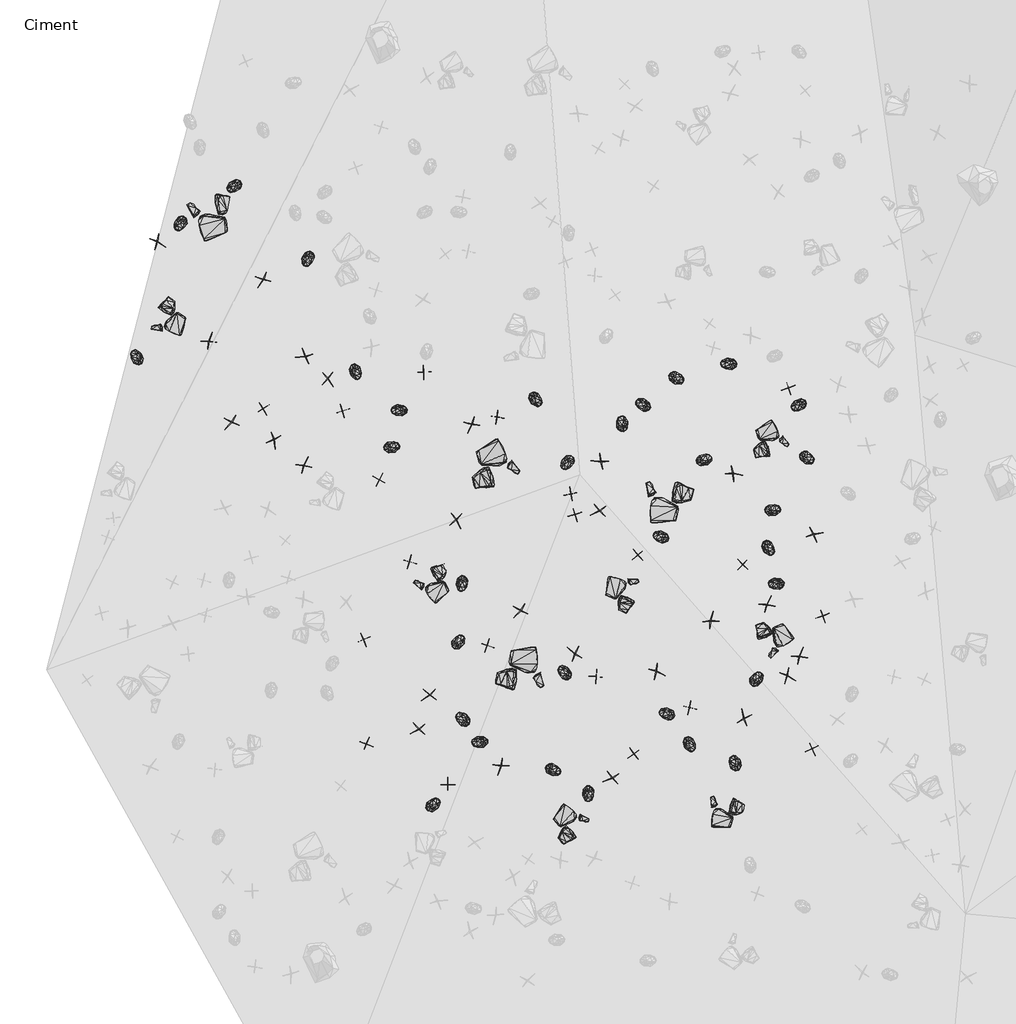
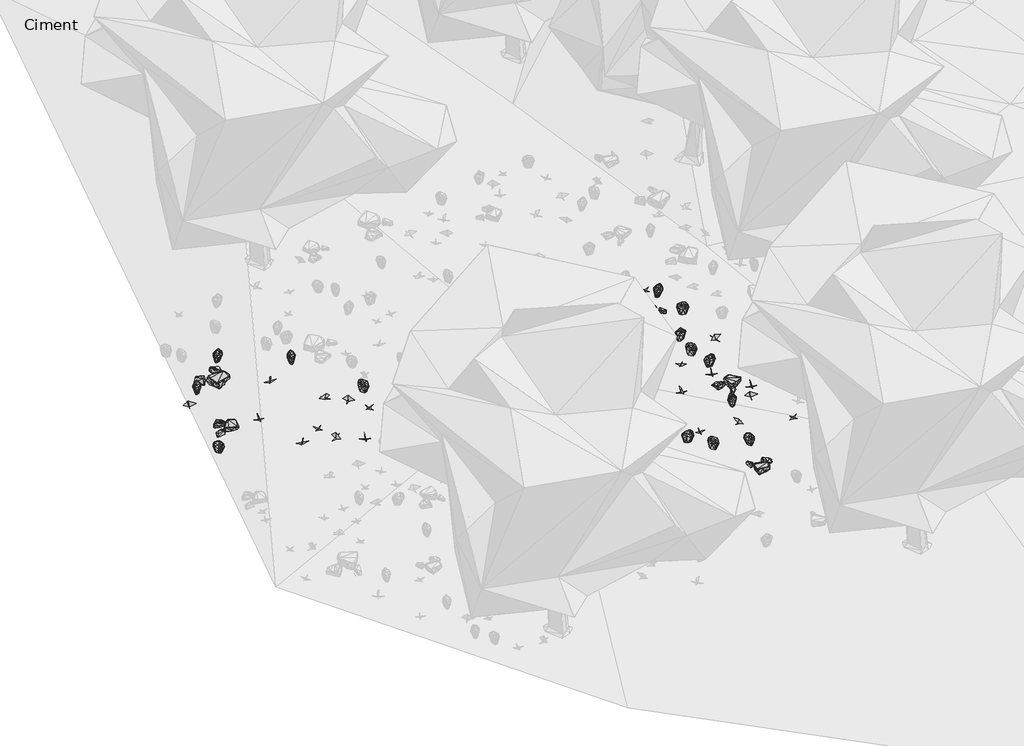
# One storey, part 6 of 30: 89 geographic elements.
"""IFC4 building model written with IfcOpenShell, lengths in millimetres."""

from ifc_helpers import new_model, si_unit, origin, place, context, project, spatial, transform, mapped, element, save
from components import enscape_assetdefinition_bush_025_fern_enscape_5718bf32, enscape_assetdefinition_bush_054_plant_09_version_2_enscape_7b546a12, enscape_assetdefinition_bush_062_plant_09_version_3_enscape_ccf8c8eb, enscape_assetdefinition_stone_013_group_enscape_516da325, enscape_assetdefinition_stone_013_group_enscape_db9b3e91

model = new_model("IFC4")

# Units and contexts
model_context = context("Model", 3, world=origin())
ifc_project = project(units=[si_unit("LENGTHUNIT", "METRE", prefix="MILLI")], contexts=[model_context])

# Site, building, storey
site = spatial("IfcSite", under=ifc_project)
building = spatial("IfcBuilding", under=site)
storey = spatial("IfcBuildingStorey", under=building, Name="Ciment", Elevation=-1500.0)

# Geographic elements
placement = place(None, origin())
enscape_assetdefinition_bush_025_fern_enscape_shape = enscape_assetdefinition_bush_025_fern_enscape_5718bf32(model_context)
element("IfcGeographicElement", 1, ObjectType="Enscape AssetDefinition - Bush 025 Fern : Enscape AssetDefinition - Bush 025 Fern", at=placement, inside=storey, context=model_context, shape_type="MappedRepresentation", body=[
    mapped(enscape_assetdefinition_bush_025_fern_enscape_shape, transform((-20373.1822968, -9754.983902, -2021.9948292), x_axis=(-0.5055555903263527, -0.8627940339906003, 0.0), y_axis=(0.8627940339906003, -0.5055555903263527, 0.0), z_axis=(0.0, 0.0, 1.0))),
])
element("IfcGeographicElement", 2, ObjectType="Enscape AssetDefinition - Bush 025 Fern : Enscape AssetDefinition - Bush 025 Fern", at=placement, inside=storey, context=model_context, shape_type="MappedRepresentation", body=[
    mapped(enscape_assetdefinition_bush_025_fern_enscape_shape, transform((-19429.6302795, -9082.7312469, -2000.0), x_axis=(-0.19521427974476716, 0.9807606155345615, 0.0), y_axis=(-0.9807606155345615, -0.19521427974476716, 0.0), z_axis=(0.0, 0.0, 1.0))),
])
element("IfcGeographicElement", 3, ObjectType="Enscape AssetDefinition - Bush 025 Fern : Enscape AssetDefinition - Bush 025 Fern", at=placement, inside=storey, context=model_context, shape_type="MappedRepresentation", body=[
    mapped(enscape_assetdefinition_bush_025_fern_enscape_shape, transform((-19084.1751099, -8762.4139786, -2000.0), x_axis=(-0.9294988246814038, 0.3688250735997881, 0.0), y_axis=(-0.3688250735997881, -0.9294988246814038, 0.0), z_axis=(0.0, 0.0, 1.0))),
])
element("IfcGeographicElement", 4, ObjectType="Enscape AssetDefinition - Bush 025 Fern : Enscape AssetDefinition - Bush 025 Fern", at=placement, inside=storey, context=model_context, shape_type="MappedRepresentation", body=[
    mapped(enscape_assetdefinition_bush_025_fern_enscape_shape, transform((-26041.2139893, -5053.1773567, -2735.9106541), x_axis=(-0.7476370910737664, -0.6641075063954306, 0.0), y_axis=(0.6641075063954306, -0.7476370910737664, 0.0), z_axis=(0.0, 0.0, 1.0))),
])
element("IfcGeographicElement", 5, ObjectType="Enscape AssetDefinition - Bush 025 Fern : Enscape AssetDefinition - Bush 025 Fern", at=placement, inside=storey, context=model_context, shape_type="MappedRepresentation", body=[
    mapped(enscape_assetdefinition_bush_025_fern_enscape_shape, transform((-24782.541275, -6292.2077179, -2466.9878483), x_axis=(-0.28930830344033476, -0.9572359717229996, 0.0), y_axis=(0.9572359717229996, -0.28930830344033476, 0.0), z_axis=(0.0, 0.0, 1.0))),
])
element("IfcGeographicElement", 6, ObjectType="Enscape AssetDefinition - Bush 025 Fern : Enscape AssetDefinition - Bush 025 Fern", at=placement, inside=storey, context=model_context, shape_type="MappedRepresentation", body=[
    mapped(enscape_assetdefinition_bush_025_fern_enscape_shape, transform((-23968.8663483, -8217.7019119, -2395.3208923), x_axis=(0.46540904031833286, -0.8850957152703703, 0.0), y_axis=(0.8850957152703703, 0.46540904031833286, 0.0), z_axis=(0.0, 0.0, 1.0))),
])
element("IfcGeographicElement", 7, ObjectType="Enscape AssetDefinition - Bush 025 Fern : Enscape AssetDefinition - Bush 025 Fern", at=placement, inside=storey, context=model_context, shape_type="MappedRepresentation", body=[
    mapped(enscape_assetdefinition_bush_025_fern_enscape_shape, transform((-23341.6194916, -9491.3005829, -2338.3626938), x_axis=(0.9426649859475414, 0.3337405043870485, 0.0), y_axis=(-0.3337405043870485, 0.9426649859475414, 0.0), z_axis=(0.0, 0.0, 1.0))),
])
element("IfcGeographicElement", 8, ObjectType="Enscape AssetDefinition - Bush 025 Fern : Enscape AssetDefinition - Bush 025 Fern", at=placement, inside=storey, context=model_context, shape_type="MappedRepresentation", body=[
    mapped(enscape_assetdefinition_bush_025_fern_enscape_shape, transform((-23234.9758148, -8858.2057953, -2321.7778206), x_axis=(-0.994392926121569, -0.10574832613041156, 0.0), y_axis=(0.10574832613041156, -0.994392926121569, 0.0), z_axis=(0.0, 0.0, 1.0))),
])
element("IfcGeographicElement", 9, ObjectType="Enscape AssetDefinition - Bush 025 Fern : Enscape AssetDefinition - Bush 025 Fern", at=placement, inside=storey, context=model_context, shape_type="MappedRepresentation", body=[
    mapped(enscape_assetdefinition_bush_025_fern_enscape_shape, transform((-18779.6897888, -11006.1740875, -2000.0), x_axis=(-0.9817370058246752, 0.19024313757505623, 0.0), y_axis=(-0.19024313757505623, -0.9817370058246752, 0.0), z_axis=(0.0, 0.0, 1.0))),
])
element("IfcGeographicElement", 10, ObjectType="Enscape AssetDefinition - Bush 025 Fern : Enscape AssetDefinition - Bush 025 Fern", at=placement, inside=storey, context=model_context, shape_type="MappedRepresentation", body=[
    mapped(enscape_assetdefinition_bush_025_fern_enscape_shape, transform((-16862.6213074, -10561.3002777, -2000.0), x_axis=(0.9594778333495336, 0.28178411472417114, 0.0), y_axis=(-0.28178411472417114, 0.9594778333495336, 0.0), z_axis=(0.0, 0.0, 1.0))),
])
element("IfcGeographicElement", 11, ObjectType="Enscape AssetDefinition - Bush 025 Fern : Enscape AssetDefinition - Bush 025 Fern", at=placement, inside=storey, context=model_context, shape_type="MappedRepresentation", body=[
    mapped(enscape_assetdefinition_bush_025_fern_enscape_shape, transform((-27688.0302429, -7952.8765678, -2961.4267349), x_axis=(-0.6186256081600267, 0.785685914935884, 0.0), y_axis=(-0.785685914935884, -0.6186256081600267, 0.0), z_axis=(0.0, 0.0, 1.0))),
])
element("IfcGeographicElement", 12, ObjectType="Enscape AssetDefinition - Bush 025 Fern : Enscape AssetDefinition - Bush 025 Fern", at=placement, inside=storey, context=model_context, shape_type="MappedRepresentation", body=[
    mapped(enscape_assetdefinition_bush_025_fern_enscape_shape, transform((-18030.374527, -9707.3192596, -2000.0), x_axis=(0.9012463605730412, 0.43330704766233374, 0.0), y_axis=(-0.43330704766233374, 0.9012463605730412, 0.0), z_axis=(0.0, 0.0, 1.0))),
])
element("IfcGeographicElement", 13, ObjectType="Enscape AssetDefinition - Bush 025 Fern : Enscape AssetDefinition - Bush 025 Fern", at=placement, inside=storey, context=model_context, shape_type="MappedRepresentation", body=[
    mapped(enscape_assetdefinition_bush_025_fern_enscape_shape, transform((-22639.8296356, -15569.524765, -2513.7047768), x_axis=(0.6612785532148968, 0.7501404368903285, 0.0), y_axis=(-0.7501404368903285, 0.6612785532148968, 0.0), z_axis=(0.0, 0.0, 1.0))),
])
element("IfcGeographicElement", 14, ObjectType="Enscape AssetDefinition - Bush 025 Fern : Enscape AssetDefinition - Bush 025 Fern", at=placement, inside=storey, context=model_context, shape_type="MappedRepresentation", body=[
    mapped(enscape_assetdefinition_bush_025_fern_enscape_shape, transform((-16946.6762543, -11212.0294571, -2000.0), x_axis=(0.6234222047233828, -0.7818853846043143, 0.0), y_axis=(0.7818853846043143, 0.6234222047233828, 0.0), z_axis=(0.0, 0.0, 1.0))),
])
element("IfcGeographicElement", 15, ObjectType="Enscape AssetDefinition - Bush 025 Fern : Enscape AssetDefinition - Bush 025 Fern", at=placement, inside=storey, context=model_context, shape_type="MappedRepresentation", body=[
    mapped(enscape_assetdefinition_bush_025_fern_enscape_shape, transform((-17628.1661987, -8068.7561035, -2000.0), x_axis=(-0.9987022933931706, -0.05092866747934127, 0.0), y_axis=(0.05092866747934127, -0.9987022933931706, 0.0), z_axis=(0.0, 0.0, 1.0))),
])
element("IfcGeographicElement", 16, ObjectType="Enscape AssetDefinition - Bush 025 Fern : Enscape AssetDefinition - Bush 025 Fern", at=placement, inside=storey, context=model_context, shape_type="MappedRepresentation", body=[
    mapped(enscape_assetdefinition_bush_025_fern_enscape_shape, transform((-16438.3506775, -8774.974823, -2000.0), x_axis=(-0.8170978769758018, -0.5764989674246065, 0.0), y_axis=(0.5764989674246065, -0.8170978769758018, 0.0), z_axis=(0.0, 0.0, 1.0))),
])
element("IfcGeographicElement", 17, ObjectType="Enscape AssetDefinition - Bush 025 Fern : Enscape AssetDefinition - Bush 025 Fern", at=placement, inside=storey, context=model_context, shape_type="MappedRepresentation", body=[
    mapped(enscape_assetdefinition_bush_025_fern_enscape_shape, transform((-20906.4102173, -8685.6441498, -2070.5237389), x_axis=(0.6902409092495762, -0.7235796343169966, 0.0), y_axis=(0.7235796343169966, 0.6902409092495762, 0.0), z_axis=(0.0, 0.0, 1.0))),
])
element("IfcGeographicElement", 18, ObjectType="Enscape AssetDefinition - Bush 025 Fern : Enscape AssetDefinition - Bush 025 Fern", at=placement, inside=storey, context=model_context, shape_type="MappedRepresentation", body=[
    mapped(enscape_assetdefinition_bush_025_fern_enscape_shape, transform((-22163.9556885, -11815.0682449, -2278.8796425), x_axis=(0.01372617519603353, -0.9999057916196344, 0.0), y_axis=(0.9999057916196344, 0.01372617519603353, 0.0), z_axis=(0.0, 0.0, 1.0))),
])
element("IfcGeographicElement", 19, ObjectType="Enscape AssetDefinition - Bush 025 Fern : Enscape AssetDefinition - Bush 025 Fern", at=placement, inside=storey, context=model_context, shape_type="MappedRepresentation", body=[
    mapped(enscape_assetdefinition_bush_025_fern_enscape_shape, transform((-17139.8887634, -13427.8383255, -2002.3159981), x_axis=(0.4922001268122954, 0.8704820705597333, 0.0), y_axis=(-0.8704820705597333, 0.4922001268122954, 0.0), z_axis=(0.0, 0.0, 1.0))),
])
element("IfcGeographicElement", 20, ObjectType="Enscape AssetDefinition - Bush 025 Fern : Enscape AssetDefinition - Bush 025 Fern", at=placement, inside=storey, context=model_context, shape_type="MappedRepresentation", body=[
    mapped(enscape_assetdefinition_bush_025_fern_enscape_shape, transform((-18287.399292, -14553.3313751, -2148.1032372), x_axis=(0.5708620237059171, -0.8210460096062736, 0.0), y_axis=(0.8210460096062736, 0.5708620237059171, 0.0), z_axis=(0.0, 0.0, 1.0))),
])
element("IfcGeographicElement", 21, ObjectType="Enscape AssetDefinition - Bush 025 Fern : Enscape AssetDefinition - Bush 025 Fern", at=placement, inside=storey, context=model_context, shape_type="MappedRepresentation", body=[
    mapped(enscape_assetdefinition_bush_025_fern_enscape_shape, transform((-20415.2679443, -13314.9051666, -2219.0861702), x_axis=(-0.7615704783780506, 0.6480820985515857, 0.0), y_axis=(-0.6480820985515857, -0.7615704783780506, 0.0), z_axis=(0.0, 0.0, 1.0))),
])
element("IfcGeographicElement", 22, ObjectType="Enscape AssetDefinition - Bush 025 Fern : Enscape AssetDefinition - Bush 025 Fern", at=placement, inside=storey, context=model_context, shape_type="MappedRepresentation", body=[
    mapped(enscape_assetdefinition_bush_025_fern_enscape_shape, transform((-20014.2097473, -15389.0018463, -2316.05196), x_axis=(0.1615142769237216, -0.9868703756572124, 0.0), y_axis=(0.9868703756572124, 0.1615142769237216, 0.0), z_axis=(0.0, 0.0, 1.0))),
])
element("IfcGeographicElement", 23, ObjectType="Enscape AssetDefinition - Bush 025 Fern : Enscape AssetDefinition - Bush 025 Fern", at=placement, inside=storey, context=model_context, shape_type="MappedRepresentation", body=[
    mapped(enscape_assetdefinition_bush_025_fern_enscape_shape, transform((-16285.6636047, -9680.6087494, -2000.0), x_axis=(0.8972354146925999, -0.4415525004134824, 0.0), y_axis=(0.4415525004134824, 0.8972354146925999, 0.0), z_axis=(0.0, 0.0, 1.0))),
])
element("IfcGeographicElement", 24, ObjectType="Enscape AssetDefinition - Bush 025 Fern : Enscape AssetDefinition - Bush 025 Fern", at=placement, inside=storey, context=model_context, shape_type="MappedRepresentation", body=[
    mapped(enscape_assetdefinition_bush_025_fern_enscape_shape, transform((-20601.3698578, -14983.3698273, -2331.8078518), x_axis=(0.9679827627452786, -0.2510166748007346, 0.0), y_axis=(0.2510166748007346, 0.9679827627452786, 0.0), z_axis=(0.0, 0.0, 1.0))),
])
element("IfcGeographicElement", 25, ObjectType="Enscape AssetDefinition - Bush 025 Fern : Enscape AssetDefinition - Bush 025 Fern", at=placement, inside=storey, context=model_context, shape_type="MappedRepresentation", body=[
    mapped(enscape_assetdefinition_bush_025_fern_enscape_shape, transform((-17512.5980377, -14853.6043167, -2113.2252216), x_axis=(-0.44383791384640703, 0.8961070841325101, 0.0), y_axis=(-0.8961070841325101, -0.44383791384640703, 0.0), z_axis=(0.0, 0.0, 1.0))),
])
element("IfcGeographicElement", 26, ObjectType="Enscape AssetDefinition - Bush 025 Fern : Enscape AssetDefinition - Bush 025 Fern", at=placement, inside=storey, context=model_context, shape_type="MappedRepresentation", body=[
    mapped(enscape_assetdefinition_bush_025_fern_enscape_shape, transform((-21863.3785248, -14501.0929108, -2389.0266418), x_axis=(-0.9659659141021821, -0.2586693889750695, 0.0), y_axis=(0.2586693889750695, -0.9659659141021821, 0.0), z_axis=(0.0, 0.0, 1.0))),
])
element("IfcGeographicElement", 27, ObjectType="Enscape AssetDefinition - Bush 025 Fern : Enscape AssetDefinition - Bush 025 Fern", at=placement, inside=storey, context=model_context, shape_type="MappedRepresentation", body=[
    mapped(enscape_assetdefinition_bush_025_fern_enscape_shape, transform((-16818.9868927, -11807.6839447, -2000.0), x_axis=(-0.9890241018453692, -0.1477542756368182, 0.0), y_axis=(0.1477542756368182, -0.9890241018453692, 0.0), z_axis=(0.0, 0.0, 1.0))),
])
element("IfcGeographicElement", 28, ObjectType="Enscape AssetDefinition - Bush 025 Fern : Enscape AssetDefinition - Bush 025 Fern", at=placement, inside=storey, context=model_context, shape_type="MappedRepresentation", body=[
    mapped(enscape_assetdefinition_bush_025_fern_enscape_shape, transform((-22210.6971741, -12798.9253998, -2333.2691193), x_axis=(0.5093106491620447, 0.8605827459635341, 0.0), y_axis=(-0.8605827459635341, 0.5093106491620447, 0.0), z_axis=(0.0, 0.0, 1.0))),
])
element("IfcGeographicElement", 29, ObjectType="Enscape AssetDefinition - Bush 025 Fern : Enscape AssetDefinition - Bush 025 Fern", at=placement, inside=storey, context=model_context, shape_type="MappedRepresentation", body=[
    mapped(enscape_assetdefinition_bush_025_fern_enscape_shape, transform((-18506.1435699, -8322.063446, -2000.0), x_axis=(0.931868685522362, -0.362795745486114, 0.0), y_axis=(0.362795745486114, 0.931868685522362, 0.0), z_axis=(0.0, 0.0, 1.0))),
])
element("IfcGeographicElement", 30, ObjectType="Enscape AssetDefinition - Bush 025 Fern : Enscape AssetDefinition - Bush 025 Fern", at=placement, inside=storey, context=model_context, shape_type="MappedRepresentation", body=[
    mapped(enscape_assetdefinition_bush_025_fern_enscape_shape, transform((-22145.8778381, -14108.3698273, -2394.0131664), x_axis=(-0.8039764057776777, 0.5946611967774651, 0.0), y_axis=(-0.5946611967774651, -0.8039764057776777, 0.0), z_axis=(0.0, 0.0, 1.0))),
])
element("IfcGeographicElement", 31, ObjectType="Enscape AssetDefinition - Bush 025 Fern : Enscape AssetDefinition - Bush 025 Fern", at=placement, inside=storey, context=model_context, shape_type="MappedRepresentation", body=[
    mapped(enscape_assetdefinition_bush_025_fern_enscape_shape, transform((-18676.6891479, -14020.6508636, -2142.7385807), x_axis=(-0.9781194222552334, 0.2080442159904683, 0.0), y_axis=(-0.2080442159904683, -0.9781194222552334, 0.0), z_axis=(0.0, 0.0, 1.0))),
])
element("IfcGeographicElement", 32, ObjectType="Enscape AssetDefinition - Bush 025 Fern : Enscape AssetDefinition - Bush 025 Fern", at=placement, inside=storey, context=model_context, shape_type="MappedRepresentation", body=[
    mapped(enscape_assetdefinition_bush_025_fern_enscape_shape, transform((-26952.041626, -5689.6972656, -2924.0088463), x_axis=(-0.42439388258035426, -0.9054776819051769, 0.0), y_axis=(0.9054776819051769, -0.42439388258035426, 0.0), z_axis=(0.0, 0.0, 1.0))),
])
enscape_assetdefinition_bush_054_plant_09_version_2_enscape_shape = enscape_assetdefinition_bush_054_plant_09_version_2_enscape_7b546a12(model_context)
element("IfcGeographicElement", 33, ObjectType="Enscape AssetDefinition - Bush 054 Plant 09, Version 2 : Enscape AssetDefinition - Bush 054 Plant 09, Version 2", at=placement, inside=storey, context=model_context, shape_type="MappedRepresentation", body=[
    mapped(enscape_assetdefinition_bush_054_plant_09_version_2_enscape_shape, transform((-21556.3201904, -8974.9221802, -2142.6081657), x_axis=(-0.9970928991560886, 0.07619547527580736, 0.0), y_axis=(-0.07619547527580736, -0.9970928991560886, 0.0), z_axis=(0.0, 0.0, 1.0))),
])
element("IfcGeographicElement", 34, ObjectType="Enscape AssetDefinition - Bush 054 Plant 09, Version 2 : Enscape AssetDefinition - Bush 054 Plant 09, Version 2", at=placement, inside=storey, context=model_context, shape_type="MappedRepresentation", body=[
    mapped(enscape_assetdefinition_bush_054_plant_09_version_2_enscape_shape, transform((-23044.7769165, -11437.5286102, -2340.3966427), x_axis=(-0.975188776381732, 0.22137490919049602, 0.0), y_axis=(-0.22137490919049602, -0.975188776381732, 0.0), z_axis=(0.0, 0.0, 1.0))),
])
element("IfcGeographicElement", 35, ObjectType="Enscape AssetDefinition - Bush 054 Plant 09, Version 2 : Enscape AssetDefinition - Bush 054 Plant 09, Version 2", at=placement, inside=storey, context=model_context, shape_type="MappedRepresentation", body=[
    mapped(enscape_assetdefinition_bush_054_plant_09_version_2_enscape_shape, transform((-20231.048584, -10635.6983185, -2045.9001064), x_axis=(-0.3553335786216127, 0.9347395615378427, 0.0), y_axis=(-0.9347395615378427, -0.3553335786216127, 0.0), z_axis=(0.0, 0.0, 1.0))),
])
element("IfcGeographicElement", 36, ObjectType="Enscape AssetDefinition - Bush 054 Plant 09, Version 2 : Enscape AssetDefinition - Bush 054 Plant 09, Version 2", at=placement, inside=storey, context=model_context, shape_type="MappedRepresentation", body=[
    mapped(enscape_assetdefinition_bush_054_plant_09_version_2_enscape_shape, transform((-16600.4371643, -8484.1804504, -2000.0), x_axis=(-0.3791080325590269, 0.9253524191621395, 0.0), y_axis=(-0.9253524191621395, -0.3791080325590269, 0.0), z_axis=(0.0, 0.0, 1.0))),
])
element("IfcGeographicElement", 37, ObjectType="Enscape AssetDefinition - Bush 054 Plant 09, Version 2 : Enscape AssetDefinition - Bush 054 Plant 09, Version 2", at=placement, inside=storey, context=model_context, shape_type="MappedRepresentation", body=[
    mapped(enscape_assetdefinition_bush_054_plant_09_version_2_enscape_shape, transform((-16197.9522705, -14620.8705902, -2009.550333), x_axis=(-0.4576244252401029, 0.8891455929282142, 0.0), y_axis=(-0.8891455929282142, -0.4576244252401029, 0.0), z_axis=(0.0, 0.0, 1.0))),
])
element("IfcGeographicElement", 38, ObjectType="Enscape AssetDefinition - Bush 054 Plant 09, Version 2 : Enscape AssetDefinition - Bush 054 Plant 09, Version 2", at=placement, inside=storey, context=model_context, shape_type="MappedRepresentation", body=[
    mapped(enscape_assetdefinition_bush_054_plant_09_version_2_enscape_shape, transform((-19165.2336121, -11329.656601, -2014.7612095), x_axis=(0.7258759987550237, 0.687825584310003, 0.0), y_axis=(-0.687825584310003, 0.7258759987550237, 0.0), z_axis=(0.0, 0.0, 1.0))),
])
element("IfcGeographicElement", 39, ObjectType="Enscape AssetDefinition - Bush 054 Plant 09, Version 2 : Enscape AssetDefinition - Bush 054 Plant 09, Version 2", at=placement, inside=storey, context=model_context, shape_type="MappedRepresentation", body=[
    mapped(enscape_assetdefinition_bush_054_plant_09_version_2_enscape_shape, transform((-25539.691925, -8829.4086456, -2568.836689), x_axis=(-0.8288860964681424, -0.5594174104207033, 0.0), y_axis=(0.5594174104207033, -0.8288860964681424, 0.0), z_axis=(0.0, 0.0, 1.0))),
])
element("IfcGeographicElement", 40, ObjectType="Enscape AssetDefinition - Bush 054 Plant 09, Version 2 : Enscape AssetDefinition - Bush 054 Plant 09, Version 2", at=placement, inside=storey, context=model_context, shape_type="MappedRepresentation", body=[
    mapped(enscape_assetdefinition_bush_054_plant_09_version_2_enscape_shape, transform((-23565.4258728, -10047.1019745, -2366.8911457), x_axis=(0.9114775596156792, -0.4113498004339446, 0.0), y_axis=(0.4113498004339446, 0.9114775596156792, 0.0), z_axis=(0.0, 0.0, 1.0))),
])
element("IfcGeographicElement", 41, ObjectType="Enscape AssetDefinition - Bush 054 Plant 09, Version 2 : Enscape AssetDefinition - Bush 054 Plant 09, Version 2", at=placement, inside=storey, context=model_context, shape_type="MappedRepresentation", body=[
    mapped(enscape_assetdefinition_bush_054_plant_09_version_2_enscape_shape, transform((-16016.1552429, -12360.7807159, -2000.0), x_axis=(-0.36712433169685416, 0.9301718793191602, 0.0), y_axis=(-0.9301718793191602, -0.36712433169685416, 0.0), z_axis=(0.0, 0.0, 1.0))),
])
element("IfcGeographicElement", 42, ObjectType="Enscape AssetDefinition - Bush 054 Plant 09, Version 2 : Enscape AssetDefinition - Bush 054 Plant 09, Version 2", at=placement, inside=storey, context=model_context, shape_type="MappedRepresentation", body=[
    mapped(enscape_assetdefinition_bush_054_plant_09_version_2_enscape_shape, transform((-22403.1429291, -15225.4695892, -2474.4868279), x_axis=(0.05610859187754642, -0.9984246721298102, 0.0), y_axis=(0.9984246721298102, 0.05610859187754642, 0.0), z_axis=(0.0, 0.0, 1.0))),
])
element("IfcGeographicElement", 43, ObjectType="Enscape AssetDefinition - Bush 054 Plant 09, Version 2 : Enscape AssetDefinition - Bush 054 Plant 09, Version 2", at=placement, inside=storey, context=model_context, shape_type="MappedRepresentation", body=[
    mapped(enscape_assetdefinition_bush_054_plant_09_version_2_enscape_shape, transform((-20307.1422577, -10290.9631729, -2031.0504436), x_axis=(0.9691447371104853, 0.24649234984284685, 0.0), y_axis=(-0.24649234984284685, 0.9691447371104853, 0.0), z_axis=(0.0, 0.0, 1.0))),
])
element("IfcGeographicElement", 44, ObjectType="Enscape AssetDefinition - Bush 054 Plant 09, Version 2 : Enscape AssetDefinition - Bush 054 Plant 09, Version 2", at=placement, inside=storey, context=model_context, shape_type="MappedRepresentation", body=[
    mapped(enscape_assetdefinition_bush_054_plant_09_version_2_enscape_shape, transform((-23787.6815796, -14533.2841873, -2566.1540031), x_axis=(-0.31588769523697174, -0.9487965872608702, 0.0), y_axis=(0.9487965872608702, -0.31588769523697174, 0.0), z_axis=(0.0, 0.0, 1.0))),
])
element("IfcGeographicElement", 45, ObjectType="Enscape AssetDefinition - Bush 054 Plant 09, Version 2 : Enscape AssetDefinition - Bush 054 Plant 09, Version 2", at=placement, inside=storey, context=model_context, shape_type="MappedRepresentation", body=[
    mapped(enscape_assetdefinition_bush_054_plant_09_version_2_enscape_shape, transform((-21725.1014709, -12859.205246, -2291.8252945), x_axis=(-0.9617134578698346, 0.2740569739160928, 0.0), y_axis=(-0.2740569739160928, -0.9617134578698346, 0.0), z_axis=(0.0, 0.0, 1.0))),
])
element("IfcGeographicElement", 46, ObjectType="Enscape AssetDefinition - Bush 054 Plant 09, Version 2 : Enscape AssetDefinition - Bush 054 Plant 09, Version 2", at=placement, inside=storey, context=model_context, shape_type="MappedRepresentation", body=[
    mapped(enscape_assetdefinition_bush_054_plant_09_version_2_enscape_shape, transform((-17381.2770844, -11491.4865494, -2000.0), x_axis=(0.6609961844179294, 0.7503892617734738, 0.0), y_axis=(-0.7503892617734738, 0.6609961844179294, 0.0), z_axis=(0.0, 0.0, 1.0))),
])
element("IfcGeographicElement", 47, ObjectType="Enscape AssetDefinition - Bush 054 Plant 09, Version 2 : Enscape AssetDefinition - Bush 054 Plant 09, Version 2", at=placement, inside=storey, context=model_context, shape_type="MappedRepresentation", body=[
    mapped(enscape_assetdefinition_bush_054_plant_09_version_2_enscape_shape, transform((-24188.621521, -8867.3915863, -2424.1771698), x_axis=(-0.942000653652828, -0.33561103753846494, 0.0), y_axis=(0.33561103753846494, -0.942000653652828, 0.0), z_axis=(0.0, 0.0, 1.0))),
])
element("IfcGeographicElement", 48, ObjectType="Enscape AssetDefinition - Bush 054 Plant 09, Version 2 : Enscape AssetDefinition - Bush 054 Plant 09, Version 2", at=placement, inside=storey, context=model_context, shape_type="MappedRepresentation", body=[
    mapped(enscape_assetdefinition_bush_054_plant_09_version_2_enscape_shape, transform((-19877.4681091, -13397.8977203, -2187.3574257), x_axis=(0.9998887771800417, -0.014914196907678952, 0.0), y_axis=(0.014914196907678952, 0.9998887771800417, 0.0), z_axis=(0.0, 0.0, 1.0))),
])
element("IfcGeographicElement", 49, ObjectType="Enscape AssetDefinition - Bush 054 Plant 09, Version 2 : Enscape AssetDefinition - Bush 054 Plant 09, Version 2", at=placement, inside=storey, context=model_context, shape_type="MappedRepresentation", body=[
    mapped(enscape_assetdefinition_bush_054_plant_09_version_2_enscape_shape, transform((-22805.3359985, -8210.111618, -2270.4138756), x_axis=(-0.9955370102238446, -0.09437193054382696, 0.0), y_axis=(0.09437193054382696, -0.9955370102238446, 0.0), z_axis=(0.0, 0.0, 1.0))),
])
element("IfcGeographicElement", 50, ObjectType="Enscape AssetDefinition - Bush 054 Plant 09, Version 2 : Enscape AssetDefinition - Bush 054 Plant 09, Version 2", at=placement, inside=storey, context=model_context, shape_type="MappedRepresentation", body=[
    mapped(enscape_assetdefinition_bush_054_plant_09_version_2_enscape_shape, transform((-19233.8409424, -14710.7830048, -2222.135067), x_axis=(0.7622540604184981, 0.6472779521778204, 0.0), y_axis=(-0.6472779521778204, 0.7622540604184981, 0.0), z_axis=(0.0, 0.0, 1.0))),
])
element("IfcGeographicElement", 51, ObjectType="Enscape AssetDefinition - Bush 054 Plant 09, Version 2 : Enscape AssetDefinition - Bush 054 Plant 09, Version 2", at=placement, inside=storey, context=model_context, shape_type="MappedRepresentation", body=[
    mapped(enscape_assetdefinition_bush_054_plant_09_version_2_enscape_shape, transform((-23827.3143768, -12758.3332062, -2479.3949127), x_axis=(-0.8954621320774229, -0.44513769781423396, 0.0), y_axis=(0.44513769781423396, -0.8954621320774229, 0.0), z_axis=(0.0, 0.0, 1.0))),
])
element("IfcGeographicElement", 52, ObjectType="Enscape AssetDefinition - Bush 054 Plant 09, Version 2 : Enscape AssetDefinition - Bush 054 Plant 09, Version 2", at=placement, inside=storey, context=model_context, shape_type="MappedRepresentation", body=[
    mapped(enscape_assetdefinition_bush_054_plant_09_version_2_enscape_shape, transform((-18284.9464417, -13916.4514542, -2109.7564697), x_axis=(-0.9850995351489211, 0.1719851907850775, 0.0), y_axis=(-0.1719851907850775, -0.9850995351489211, 0.0), z_axis=(0.0, 0.0, 1.0))),
])
enscape_assetdefinition_bush_062_plant_09_version_3_enscape_shape = enscape_assetdefinition_bush_062_plant_09_version_3_enscape_ccf8c8eb(model_context)
element("IfcGeographicElement", 53, ObjectType="Enscape AssetDefinition - Bush 062 Plant 09, Version 3 : Enscape AssetDefinition - Bush 062 Plant 09, Version 3", at=placement, inside=storey, context=model_context, shape_type="MappedRepresentation", body=[
    mapped(enscape_assetdefinition_bush_062_plant_09_version_3_enscape_shape, transform((-17365.4060364, -14093.2407379, -2057.5966835), x_axis=(0.8240055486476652, 0.566581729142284, 0.0), y_axis=(-0.566581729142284, 0.8240055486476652, 0.0), z_axis=(0.0, 0.0, 1.0))),
])
element("IfcGeographicElement", 54, ObjectType="Enscape AssetDefinition - Bush 062 Plant 09, Version 3 : Enscape AssetDefinition - Bush 062 Plant 09, Version 3", at=placement, inside=storey, context=model_context, shape_type="MappedRepresentation", body=[
    mapped(enscape_assetdefinition_bush_062_plant_09_version_3_enscape_shape, transform((-25352.6573181, -9370.3784943, -2553.1620979), x_axis=(-0.8484718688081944, -0.52924048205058, 0.0), y_axis=(0.52924048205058, -0.8484718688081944, 0.0), z_axis=(0.0, 0.0, 1.0))),
])
element("IfcGeographicElement", 55, ObjectType="Enscape AssetDefinition - Bush 062 Plant 09, Version 3 : Enscape AssetDefinition - Bush 062 Plant 09, Version 3", at=placement, inside=storey, context=model_context, shape_type="MappedRepresentation", body=[
    mapped(enscape_assetdefinition_bush_062_plant_09_version_3_enscape_shape, transform((-17927.6504517, -12433.011055, -2000.0), x_axis=(0.9907311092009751, 0.13583765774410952, 0.0), y_axis=(-0.13583765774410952, 0.9907311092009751, 0.0), z_axis=(0.0, 0.0, 1.0))),
])
element("IfcGeographicElement", 56, ObjectType="Enscape AssetDefinition - Bush 062 Plant 09, Version 3 : Enscape AssetDefinition - Bush 062 Plant 09, Version 3", at=placement, inside=storey, context=model_context, shape_type="MappedRepresentation", body=[
    mapped(enscape_assetdefinition_bush_062_plant_09_version_3_enscape_shape, transform((-16616.2166595, -13377.366066, -2000.0), x_axis=(-0.15210045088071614, -0.9883650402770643, 0.0), y_axis=(0.9883650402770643, -0.15210045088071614, 0.0), z_axis=(0.0, 0.0, 1.0))),
])
element("IfcGeographicElement", 57, ObjectType="Enscape AssetDefinition - Bush 062 Plant 09, Version 3 : Enscape AssetDefinition - Bush 062 Plant 09, Version 3", at=placement, inside=storey, context=model_context, shape_type="MappedRepresentation", body=[
    mapped(enscape_assetdefinition_bush_062_plant_09_version_3_enscape_shape, transform((-24842.2870636, -9793.8098907, -2501.8396378), x_axis=(0.9988818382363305, -0.04727656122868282, 0.0), y_axis=(0.04727656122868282, 0.9988818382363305, 0.0), z_axis=(0.0, 0.0, 1.0))),
])
element("IfcGeographicElement", 58, ObjectType="Enscape AssetDefinition - Bush 062 Plant 09, Version 3 : Enscape AssetDefinition - Bush 062 Plant 09, Version 3", at=placement, inside=storey, context=model_context, shape_type="MappedRepresentation", body=[
    mapped(enscape_assetdefinition_bush_062_plant_09_version_3_enscape_shape, transform((-25542.5720215, -6649.0035057, -2551.4364243), x_axis=(-0.9819338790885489, 0.1892243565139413, 0.0), y_axis=(-0.1892243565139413, -0.9819338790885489, 0.0), z_axis=(0.0, 0.0, 1.0))),
])
element("IfcGeographicElement", 59, ObjectType="Enscape AssetDefinition - Bush 062 Plant 09, Version 3 : Enscape AssetDefinition - Bush 062 Plant 09, Version 3", at=placement, inside=storey, context=model_context, shape_type="MappedRepresentation", body=[
    mapped(enscape_assetdefinition_bush_062_plant_09_version_3_enscape_shape, transform((-27328.1078339, -6001.7681122, -2998.445034), x_axis=(-0.15868067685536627, -0.9873299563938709, 0.0), y_axis=(0.9873299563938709, -0.15868067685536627, 0.0), z_axis=(0.0, 0.0, 1.0))),
])
element("IfcGeographicElement", 60, ObjectType="Enscape AssetDefinition - Bush 062 Plant 09, Version 3 : Enscape AssetDefinition - Bush 062 Plant 09, Version 3", at=placement, inside=storey, context=model_context, shape_type="MappedRepresentation", body=[
    mapped(enscape_assetdefinition_bush_062_plant_09_version_3_enscape_shape, transform((-16967.540741, -12159.863472, -2000.0), x_axis=(0.9993662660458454, -0.03559587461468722, 0.0), y_axis=(0.03559587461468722, 0.9993662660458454, 0.0), z_axis=(0.0, 0.0, 1.0))),
])
element("IfcGeographicElement", 61, ObjectType="Enscape AssetDefinition - Bush 062 Plant 09, Version 3 : Enscape AssetDefinition - Bush 062 Plant 09, Version 3", at=placement, inside=storey, context=model_context, shape_type="MappedRepresentation", body=[
    mapped(enscape_assetdefinition_bush_062_plant_09_version_3_enscape_shape, transform((-19612.6155853, -15122.0569611, -2272.6411819), x_axis=(-0.7130157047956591, 0.7011480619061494, 0.0), y_axis=(-0.7011480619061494, -0.7130157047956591, 0.0), z_axis=(0.0, 0.0, 1.0))),
])
element("IfcGeographicElement", 62, ObjectType="Enscape AssetDefinition - Bush 062 Plant 09, Version 3 : Enscape AssetDefinition - Bush 062 Plant 09, Version 3", at=placement, inside=storey, context=model_context, shape_type="MappedRepresentation", body=[
    mapped(enscape_assetdefinition_bush_062_plant_09_version_3_enscape_shape, transform((-24834.5508575, -7947.5331306, -2486.0134125), x_axis=(-0.4713621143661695, 0.881939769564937, 0.0), y_axis=(-0.881939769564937, -0.4713621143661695, 0.0), z_axis=(0.0, 0.0, 1.0))),
])
element("IfcGeographicElement", 63, ObjectType="Enscape AssetDefinition - Bush 062 Plant 09, Version 3 : Enscape AssetDefinition - Bush 062 Plant 09, Version 3", at=placement, inside=storey, context=model_context, shape_type="MappedRepresentation", body=[
    mapped(enscape_assetdefinition_bush_062_plant_09_version_3_enscape_shape, transform((-21990.0493622, -9109.4417572, -2190.2391911), x_axis=(-0.9981543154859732, 0.06072859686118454, 0.0), y_axis=(-0.06072859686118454, -0.9981543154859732, 0.0), z_axis=(0.0, 0.0, 1.0))),
])
element("IfcGeographicElement", 64, ObjectType="Enscape AssetDefinition - Bush 062 Plant 09, Version 3 : Enscape AssetDefinition - Bush 062 Plant 09, Version 3", at=placement, inside=storey, context=model_context, shape_type="MappedRepresentation", body=[
    mapped(enscape_assetdefinition_bush_062_plant_09_version_3_enscape_shape, transform((-19827.5032043, -10578.546524, -2014.9326324), x_axis=(-0.7438252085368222, 0.6683741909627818, 0.0), y_axis=(-0.6683741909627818, -0.7438252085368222, 0.0), z_axis=(0.0, 0.0, 1.0))),
])
element("IfcGeographicElement", 65, ObjectType="Enscape AssetDefinition - Bush 062 Plant 09, Version 3 : Enscape AssetDefinition - Bush 062 Plant 09, Version 3", at=placement, inside=storey, context=model_context, shape_type="MappedRepresentation", body=[
    mapped(enscape_assetdefinition_bush_062_plant_09_version_3_enscape_shape, transform((-18839.2105103, -13304.895401, -2110.922575), x_axis=(-0.07588434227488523, -0.9971166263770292, 0.0), y_axis=(0.9971166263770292, -0.07588434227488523, 0.0), z_axis=(0.0, 0.0, 1.0))),
])
element("IfcGeographicElement", 66, ObjectType="Enscape AssetDefinition - Bush 062 Plant 09, Version 3 : Enscape AssetDefinition - Bush 062 Plant 09, Version 3", at=placement, inside=storey, context=model_context, shape_type="MappedRepresentation", body=[
    mapped(enscape_assetdefinition_bush_062_plant_09_version_3_enscape_shape, transform((-17535.4633331, -9938.3487701, -2000.0), x_axis=(0.24374864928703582, -0.9698384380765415, 0.0), y_axis=(0.9698384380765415, 0.24374864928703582, 0.0), z_axis=(0.0, 0.0, 1.0))),
])
element("IfcGeographicElement", 67, ObjectType="Enscape AssetDefinition - Bush 062 Plant 09, Version 3 : Enscape AssetDefinition - Bush 062 Plant 09, Version 3", at=placement, inside=storey, context=model_context, shape_type="MappedRepresentation", body=[
    mapped(enscape_assetdefinition_bush_062_plant_09_version_3_enscape_shape, transform((-26081.9454193, -9072.9484558, -2628.9987564), x_axis=(-0.9469475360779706, 0.3213881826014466, 0.0), y_axis=(-0.3213881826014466, -0.9469475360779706, 0.0), z_axis=(0.0, 0.0, 1.0))),
])
element("IfcGeographicElement", 68, ObjectType="Enscape AssetDefinition - Bush 062 Plant 09, Version 3 : Enscape AssetDefinition - Bush 062 Plant 09, Version 3", at=placement, inside=storey, context=model_context, shape_type="MappedRepresentation", body=[
    mapped(enscape_assetdefinition_bush_062_plant_09_version_3_enscape_shape, transform((-19806.9610596, -9737.0052338, -2000.0), x_axis=(-0.2913411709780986, 0.9566192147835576, 0.0), y_axis=(-0.9566192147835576, -0.2913411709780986, 0.0), z_axis=(0.0, 0.0, 1.0))),
])
element("IfcGeographicElement", 69, ObjectType="Enscape AssetDefinition - Bush 062 Plant 09, Version 3 : Enscape AssetDefinition - Bush 062 Plant 09, Version 3", at=placement, inside=storey, context=model_context, shape_type="MappedRepresentation", body=[
    mapped(enscape_assetdefinition_bush_062_plant_09_version_3_enscape_shape, transform((-16417.175293, -13040.0285721, -2000.0), x_axis=(0.9998760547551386, 0.01574405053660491, 0.0), y_axis=(-0.01574405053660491, 0.9998760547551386, 0.0), z_axis=(0.0, 0.0, 1.0))),
])
element("IfcGeographicElement", 70, ObjectType="Enscape AssetDefinition - Bush 062 Plant 09, Version 3 : Enscape AssetDefinition - Bush 062 Plant 09, Version 3", at=placement, inside=storey, context=model_context, shape_type="MappedRepresentation", body=[
    mapped(enscape_assetdefinition_bush_062_plant_09_version_3_enscape_shape, transform((-24428.7261963, -8332.1895599, -2445.5933571), x_axis=(-0.5566817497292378, -0.8307258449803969, 0.0), y_axis=(0.8307258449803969, -0.5566817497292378, 0.0), z_axis=(0.0, 0.0, 1.0))),
])
element("IfcGeographicElement", 71, ObjectType="Enscape AssetDefinition - Bush 062 Plant 09, Version 3 : Enscape AssetDefinition - Bush 062 Plant 09, Version 3", at=placement, inside=storey, context=model_context, shape_type="MappedRepresentation", body=[
    mapped(enscape_assetdefinition_bush_062_plant_09_version_3_enscape_shape, transform((-22249.3095398, -10732.4895859, -2231.5714359), x_axis=(-0.6491002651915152, -0.7607028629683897, 0.0), y_axis=(0.7607028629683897, -0.6491002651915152, 0.0), z_axis=(0.0, 0.0, 1.0))),
])
element("IfcGeographicElement", 72, ObjectType="Enscape AssetDefinition - Bush 062 Plant 09, Version 3 : Enscape AssetDefinition - Bush 062 Plant 09, Version 3", at=placement, inside=storey, context=model_context, shape_type="MappedRepresentation", body=[
    mapped(enscape_assetdefinition_bush_062_plant_09_version_3_enscape_shape, transform((-22714.5309448, -13711.3752365, -2425.9228706), x_axis=(-0.8446799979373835, 0.5352716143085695, 0.0), y_axis=(-0.5352716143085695, -0.8446799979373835, 0.0), z_axis=(0.0, 0.0, 1.0))),
])
element("IfcGeographicElement", 73, ObjectType="Enscape AssetDefinition - Bush 062 Plant 09, Version 3 : Enscape AssetDefinition - Bush 062 Plant 09, Version 3", at=placement, inside=storey, context=model_context, shape_type="MappedRepresentation", body=[
    mapped(enscape_assetdefinition_bush_062_plant_09_version_3_enscape_shape, transform((-21493.7133789, -14921.5459824, -2389.0028), x_axis=(-0.9986472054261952, -0.05199768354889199, 0.0), y_axis=(0.05199768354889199, -0.9986472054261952, 0.0), z_axis=(0.0, 0.0, 1.0))),
])
element("IfcGeographicElement", 74, ObjectType="Enscape AssetDefinition - Bush 062 Plant 09, Version 3 : Enscape AssetDefinition - Bush 062 Plant 09, Version 3", at=placement, inside=storey, context=model_context, shape_type="MappedRepresentation", body=[
    mapped(enscape_assetdefinition_bush_062_plant_09_version_3_enscape_shape, transform((-26456.3274384, -7679.3308258, -2668.5914993), x_axis=(0.9984695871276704, 0.05530355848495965, 0.0), y_axis=(-0.05530355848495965, 0.9984695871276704, 0.0), z_axis=(0.0, 0.0, 1.0))),
])
element("IfcGeographicElement", 75, ObjectType="Enscape AssetDefinition - Bush 062 Plant 09, Version 3 : Enscape AssetDefinition - Bush 062 Plant 09, Version 3", at=placement, inside=storey, context=model_context, shape_type="MappedRepresentation", body=[
    mapped(enscape_assetdefinition_bush_062_plant_09_version_3_enscape_shape, transform((-22898.5519409, -14291.0404205, -2472.3124504), x_axis=(-0.7828754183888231, 0.6221784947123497, 0.0), y_axis=(-0.6221784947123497, -0.7828754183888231, 0.0), z_axis=(0.0, 0.0, 1.0))),
])
element("IfcGeographicElement", 76, ObjectType="Enscape AssetDefinition - Bush 062 Plant 09, Version 3 : Enscape AssetDefinition - Bush 062 Plant 09, Version 3", at=placement, inside=storey, context=model_context, shape_type="MappedRepresentation", body=[
    mapped(enscape_assetdefinition_bush_062_plant_09_version_3_enscape_shape, transform((-16167.1905518, -10967.5197601, -2000.0), x_axis=(0.511922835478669, -0.8590314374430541, 0.0), y_axis=(0.8590314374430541, 0.511922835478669, 0.0), z_axis=(0.0, 0.0, 1.0))),
])
element("IfcGeographicElement", 77, ObjectType="Enscape AssetDefinition - Bush 062 Plant 09, Version 3 : Enscape AssetDefinition - Bush 062 Plant 09, Version 3", at=placement, inside=storey, context=model_context, shape_type="MappedRepresentation", body=[
    mapped(enscape_assetdefinition_bush_062_plant_09_version_3_enscape_shape, transform((-21167.9039001, -12276.2813568, -2211.0614777), x_axis=(-0.9384955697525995, 0.3452912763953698, 0.0), y_axis=(-0.3452912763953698, -0.9384955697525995, 0.0), z_axis=(0.0, 0.0, 1.0))),
])
element("IfcGeographicElement", 78, ObjectType="Enscape AssetDefinition - Bush 062 Plant 09, Version 3 : Enscape AssetDefinition - Bush 062 Plant 09, Version 3", at=placement, inside=storey, context=model_context, shape_type="MappedRepresentation", body=[
    mapped(enscape_assetdefinition_bush_062_plant_09_version_3_enscape_shape, transform((-20247.5795746, -12997.3363876, -2188.603878), x_axis=(0.2943061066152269, 0.9557112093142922, 0.0), y_axis=(-0.9557112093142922, 0.2943061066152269, 0.0), z_axis=(0.0, 0.0, 1.0))),
])
enscape_assetdefinition_stone_013_group_enscape_shape = enscape_assetdefinition_stone_013_group_enscape_516da325(model_context)
element("IfcGeographicElement", 79, ObjectType="Enscape AssetDefinition - Stone 013 Group : Enscape AssetDefinition - Stone 013 Group", at=placement, inside=storey, context=model_context, shape_type="MappedRepresentation", body=[
    mapped(enscape_assetdefinition_stone_013_group_enscape_shape, transform((-21573.0209351, -9807.7297211, -2151.1640549), x_axis=(0.8958761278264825, 0.4443039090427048, 0.0), y_axis=(-0.4443039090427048, 0.8958761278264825, 0.0), z_axis=(0.0, 0.0, 1.0))),
])
element("IfcGeographicElement", 80, ObjectType="Enscape AssetDefinition - Stone 013 Group : Enscape AssetDefinition - Stone 013 Group", at=placement, inside=storey, context=model_context, shape_type="MappedRepresentation", body=[
    mapped(enscape_assetdefinition_stone_013_group_enscape_shape, transform((-18709.4745636, -10371.1032867, -2000.0), x_axis=(-0.9997067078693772, 0.024217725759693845, 0.0), y_axis=(-0.024217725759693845, -0.9997067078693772, 0.0), z_axis=(0.0, 0.0, 1.0))),
])
element("IfcGeographicElement", 81, ObjectType="Enscape AssetDefinition - Stone 013 Group : Enscape AssetDefinition - Stone 013 Group", at=placement, inside=storey, context=model_context, shape_type="MappedRepresentation", body=[
    mapped(enscape_assetdefinition_stone_013_group_enscape_shape, transform((-21104.2385101, -13307.6992035, -2265.6745911), x_axis=(0.9985621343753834, 0.053606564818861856, 0.0), y_axis=(-0.053606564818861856, 0.9985621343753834, 0.0), z_axis=(0.0, 0.0, 1.0))),
])
element("IfcGeographicElement", 82, ObjectType="Enscape AssetDefinition - Stone 013 Group : Enscape AssetDefinition - Stone 013 Group", at=placement, inside=storey, context=model_context, shape_type="MappedRepresentation", body=[
    mapped(enscape_assetdefinition_stone_013_group_enscape_shape, transform((-26438.6081696, -5531.1927795, -2804.8560619), x_axis=(-0.9568206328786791, -0.29067899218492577, 0.0), y_axis=(0.29067899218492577, -0.9568206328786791, 0.0), z_axis=(0.0, 0.0, 1.0))),
])
enscape_assetdefinition_stone_013_group_enscape_2_shape = enscape_assetdefinition_stone_013_group_enscape_db9b3e91(model_context)
element("IfcGeographicElement", 83, ObjectType="Enscape AssetDefinition - Stone 013 Group : Enscape AssetDefinition - Stone 013 Group 2", at=placement, inside=storey, context=model_context, shape_type="MappedRepresentation", body=[
    mapped(enscape_assetdefinition_stone_013_group_enscape_2_shape, transform((-16858.3030701, -12760.9300613, -2000.0), x_axis=(0.5165894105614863, -0.8562332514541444, 0.0), y_axis=(0.8562332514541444, 0.5165894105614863, 0.0), z_axis=(0.0, 0.0, 1.0))),
])
element("IfcGeographicElement", 84, ObjectType="Enscape AssetDefinition - Stone 013 Group : Enscape AssetDefinition - Stone 013 Group 2", at=placement, inside=storey, context=model_context, shape_type="MappedRepresentation", body=[
    mapped(enscape_assetdefinition_stone_013_group_enscape_2_shape, transform((-17708.4541321, -15665.7733917, -2175.2796173), x_axis=(-0.9923525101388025, 0.12343620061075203, 0.0), y_axis=(-0.12343620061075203, -0.9923525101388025, 0.0), z_axis=(0.0, 0.0, 1.0))),
])
element("IfcGeographicElement", 85, ObjectType="Enscape AssetDefinition - Stone 013 Group : Enscape AssetDefinition - Stone 013 Group 2", at=placement, inside=storey, context=model_context, shape_type="MappedRepresentation", body=[
    mapped(enscape_assetdefinition_stone_013_group_enscape_2_shape, transform((-20299.9305725, -15875.8020401, -2364.7351265), x_axis=(0.6334270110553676, 0.7738024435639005, 0.0), y_axis=(-0.7738024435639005, 0.6334270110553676, 0.0), z_axis=(0.0, 0.0, 1.0))),
])
element("IfcGeographicElement", 86, ObjectType="Enscape AssetDefinition - Stone 013 Group : Enscape AssetDefinition - Stone 013 Group 2", at=placement, inside=storey, context=model_context, shape_type="MappedRepresentation", body=[
    mapped(enscape_assetdefinition_stone_013_group_enscape_2_shape, transform((-16899.471283, -9376.4019012, -2000.0), x_axis=(0.8871500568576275, 0.46148106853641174, 0.0), y_axis=(-0.46148106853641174, 0.8871500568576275, 0.0), z_axis=(0.0, 0.0, 1.0))),
])
element("IfcGeographicElement", 87, ObjectType="Enscape AssetDefinition - Stone 013 Group : Enscape AssetDefinition - Stone 013 Group 2", at=placement, inside=storey, context=model_context, shape_type="MappedRepresentation", body=[
    mapped(enscape_assetdefinition_stone_013_group_enscape_2_shape, transform((-22663.1698608, -11804.3775558, -2324.0969181), x_axis=(-0.7877565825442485, -0.6159866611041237, 0.0), y_axis=(0.6159866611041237, -0.7877565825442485, 0.0), z_axis=(0.0, 0.0, 1.0))),
])
element("IfcGeographicElement", 88, ObjectType="Enscape AssetDefinition - Stone 013 Group : Enscape AssetDefinition - Stone 013 Group 2", at=placement, inside=storey, context=model_context, shape_type="MappedRepresentation", body=[
    mapped(enscape_assetdefinition_stone_013_group_enscape_2_shape, transform((-19406.5589905, -11925.8518219, -2066.9717789), x_axis=(0.23151451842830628, 0.9728314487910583, 0.0), y_axis=(-0.9728314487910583, 0.23151451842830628, 0.0), z_axis=(0.0, 0.0, 1.0))),
])
element("IfcGeographicElement", 89, ObjectType="Enscape AssetDefinition - Stone 013 Group : Enscape AssetDefinition - Stone 013 Group 2", at=placement, inside=storey, context=model_context, shape_type="MappedRepresentation", body=[
    mapped(enscape_assetdefinition_stone_013_group_enscape_2_shape, transform((-27159.5535278, -7325.0675201, -2869.2238331), x_axis=(-0.35778939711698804, -0.9338023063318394, 0.0), y_axis=(0.9338023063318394, -0.35778939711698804, 0.0), z_axis=(0.0, 0.0, 1.0))),
])

save(model, "model.ifc")
